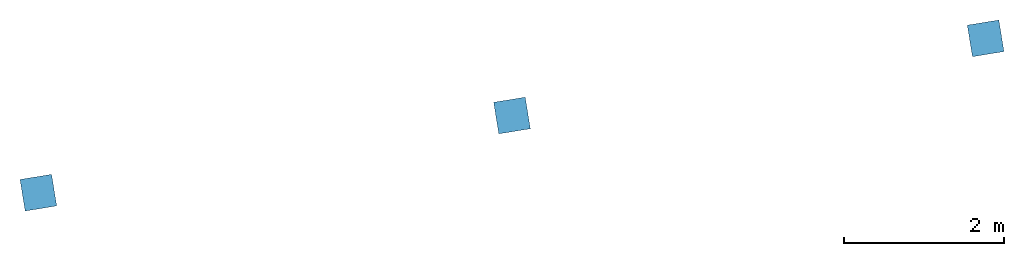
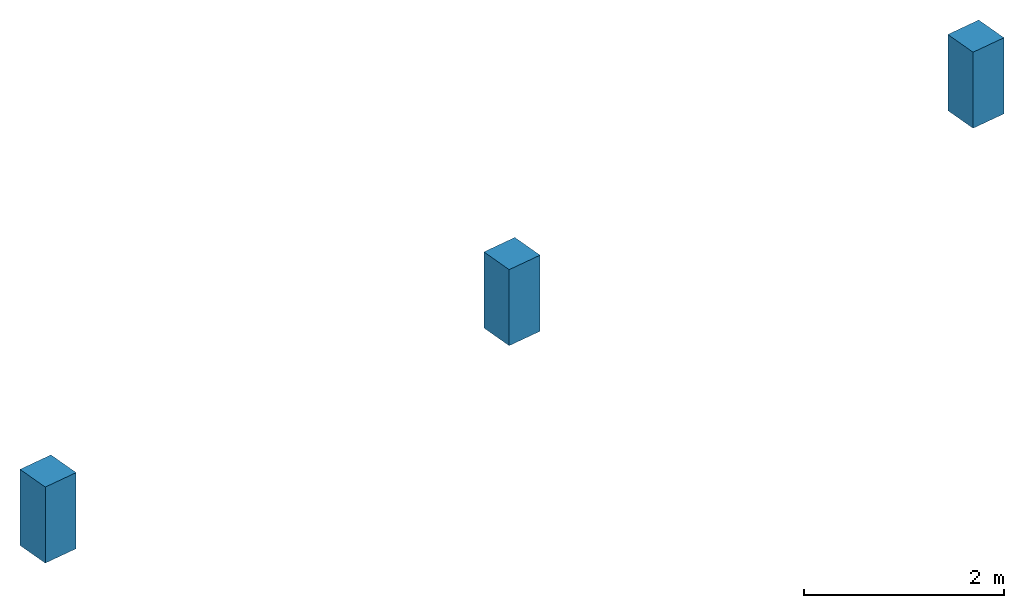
# One storey: 3 columns.
"""IFC2X3 building model written with IfcOpenShell, lengths in millimetres."""

from ifc_helpers import new_model, entity, si_unit, converted_unit, derived_unit, direction, frame, origin, origin_with_axes, place, context, subcontext, project, spatial, faceted_brep, type_object, element, save


model = new_model("IFC2X3")

# Units and contexts
model_context = context("Model", 3, precision=0.01, world=origin(), true_north=direction((6.12323399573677e-17, 1.0)))
plan_context = context("Plan", 3, precision=1e-05, world=origin_with_axes())
body_context = subcontext(model_context, "Body", "Model", "MODEL_VIEW")
ifc_project = project(units=[converted_unit("PLANEANGLEUNIT", "DEGREE", entity("IfcPositiveLengthMeasure", 0.0174532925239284), si_unit("PLANEANGLEUNIT", "RADIAN"), dimensions=[0, 0, 0, 0, 0, 0, 0]), si_unit("AREAUNIT", "SQUARE_METRE"), si_unit("LENGTHUNIT", "METRE", prefix="MILLI"), si_unit("MASSUNIT", "GRAM", prefix="KILO"), si_unit("POWERUNIT", "WATT"), si_unit("PRESSUREUNIT", "PASCAL", prefix="KILO"), si_unit("FORCEUNIT", "NEWTON", prefix="KILO"), si_unit("ELECTRICVOLTAGEUNIT", "VOLT"), si_unit("ELECTRICCURRENTUNIT", "AMPERE"), si_unit("THERMODYNAMICTEMPERATUREUNIT", "DEGREE_CELSIUS"), si_unit("TIMEUNIT", "SECOND"), si_unit("VOLUMEUNIT", "CUBIC_METRE"), derived_unit("LINEARVELOCITYUNIT", [(si_unit("LENGTHUNIT", "METRE"), 1), (si_unit("TIMEUNIT", "SECOND"), -1)]), derived_unit("VOLUMETRICFLOWRATEUNIT", [(si_unit("VOLUMEUNIT", "CUBIC_METRE"), 1), (si_unit("TIMEUNIT", "SECOND"), -1)]), derived_unit("THERMALTRANSMITTANCEUNIT", [(si_unit("POWERUNIT", "WATT"), 1), (si_unit("THERMODYNAMICTEMPERATUREUNIT", "KELVIN"), -1), (si_unit("AREAUNIT", "SQUARE_METRE"), -1)]), derived_unit("SOUNDPRESSUREUNIT", [(si_unit("PRESSUREUNIT", "PASCAL"), 1)])], contexts=[model_context, plan_context])

# Site, building, storey
site_placement = place(None, frame((5.09380697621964e-08, 5.80416781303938e-08, 0.0), z_axis=(0.0, 0.0, 1.0), x_axis=(-0.160806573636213, 0.986985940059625, 0.0)))
site = spatial("IfcSite", under=ifc_project, at=site_placement, Name="Default", CompositionType="ELEMENT")
building_placement = place(site_placement, frame((0.0, 0.0, 0.0), z_axis=(0.0, 0.0, 1.0), x_axis=(1.0, -2.77555756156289e-17, 0.0)))
building = spatial("IfcBuilding", under=site, at=building_placement, CompositionType="ELEMENT")
storey_placement = place(building_placement, frame((0.0, 0.0, 47800.0), z_axis=(0.0, 0.0, 1.0), x_axis=(1.0, -2.77555756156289e-17, 0.0)))
storey = spatial("IfcBuildingStorey", under=building, at=storey_placement, Name="U01-Nivå B+3,1m", CompositionType="ELEMENT", Elevation=47800.0)

# Columns
column_type = type_object("IfcColumnType", Name="400*400", PredefinedType="NOTDEFINED")
column_1_placement = place(storey_placement, frame((0.0, 0.0, 0.0), z_axis=(0.0, 0.0, 1.0), x_axis=(1.0, -2.77555756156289e-17, 0.0)))
element("IfcColumn", 1, at=column_1_placement, inside=storey, type_object=column_type, Name="PLASSTØPTSØYLE", ObjectType="400*400", context=body_context, shape_type="Brep", body=[
    faceted_brep([(1004438.52893022, -384180.276417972, 7630.0), (1004838.52893023, -384180.274347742, 7629.99999895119), (1004838.53100046, -384580.274347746, 7629.99999895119), (1004438.53100044, -384580.276417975, 7630.0), (1004838.53099802, -384580.274347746, 6699.99999918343), (1004438.53099801, -384580.276417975, 6700.0), (1004438.52892778, -384180.276417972, 6700.0), (1004838.52892779, -384180.274347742, 6699.99999918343), (1004838.52892779, -384180.274347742, 6700.0), (1004838.53099802, -384580.274347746, 6700.0)], [[[0, 1, 2, 3]], [[4, 5, 3, 2]], [[6, 7, 1, 0]], [[5, 6, 0, 3]], [[7, 4, 2, 1]], [[8, 6, 5, 9]]], orient=[[False], [False], [False], [False], [False], [False]]),
])
column_2_placement = place(storey_placement, frame((0.0, 0.0, 0.0), z_axis=(0.0, 0.0, 1.0), x_axis=(1.0, -2.77555756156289e-17, 0.0)))
element("IfcColumn", 2, at=column_2_placement, inside=storey, type_object=column_type, Name="PLASSTØPTSØYLE", ObjectType="400*400", context=body_context, shape_type="Brep", body=[
    faceted_brep([(1004438.55544498, -390180.276418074, 7630.0), (1004838.555445, -390180.274347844, 7629.99999895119), (1004838.55751523, -390580.274347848, 7629.99999895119), (1004438.55751521, -390580.276418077, 7630.0), (1004838.55751279, -390580.274347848, 6699.99999918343), (1004438.55751277, -390580.276418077, 6700.0), (1004438.55544255, -390180.276418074, 6700.0), (1004838.55544256, -390180.274347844, 6699.99999918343), (1004838.55544256, -390180.274347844, 6700.0), (1004838.55751279, -390580.274347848, 6700.0)], [[[0, 1, 2, 3]], [[4, 5, 3, 2]], [[6, 7, 1, 0]], [[5, 6, 0, 3]], [[7, 4, 2, 1]], [[8, 6, 5, 9]]], orient=[[False], [False], [False], [False], [False], [False]]),
])
column_3_placement = place(storey_placement, frame((0.0, 0.0, 0.0), z_axis=(0.0, 0.0, 1.0), x_axis=(1.0, -2.77555756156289e-17, 0.0)))
element("IfcColumn", 3, at=column_3_placement, inside=storey, type_object=column_type, Name="PLASSTØPTSØYLE", ObjectType="400*400", context=body_context, shape_type="Brep", body=[
    faceted_brep([(1004438.58195976, -396180.276418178, 7630.0), (1004838.58195978, -396180.274347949, 7629.99999895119), (1004838.58403, -396580.274347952, 7629.99999895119), (1004438.58402999, -396580.276418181, 7630.0), (1004838.58402757, -396580.274347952, 6699.99999918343), (1004438.58402755, -396580.276418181, 6700.0), (1004438.58195732, -396180.276418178, 6700.0), (1004838.58195734, -396180.274347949, 6699.99999918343), (1004838.58195734, -396180.274347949, 6700.0), (1004838.58402757, -396580.274347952, 6700.0)], [[[0, 1, 2, 3]], [[4, 5, 3, 2]], [[6, 7, 1, 0]], [[5, 6, 0, 3]], [[7, 4, 2, 1]], [[8, 6, 5, 9]]], orient=[[False], [False], [False], [False], [False], [False]]),
])

save(model, "model.ifc")
